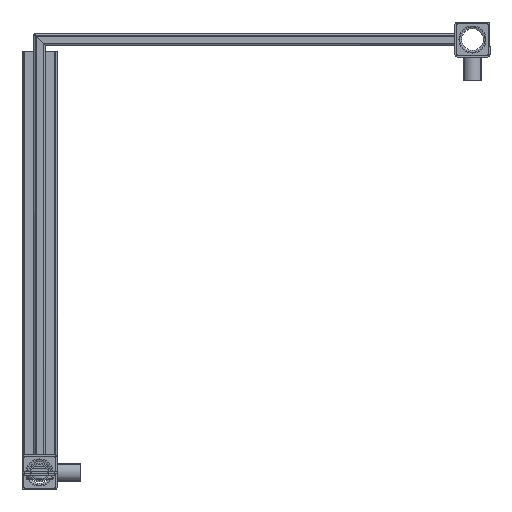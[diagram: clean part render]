
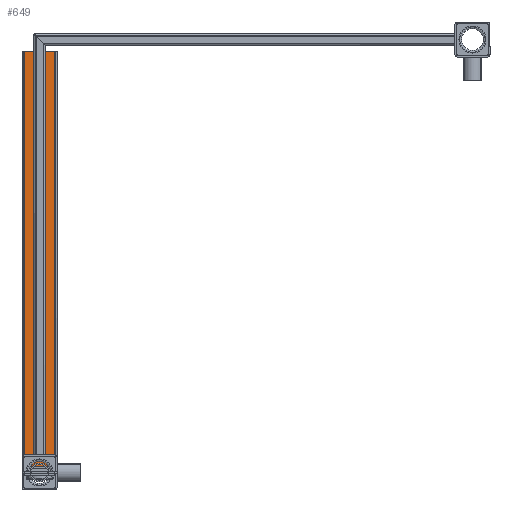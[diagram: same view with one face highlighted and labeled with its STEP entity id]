
A CAD part, front view. The second image highlights one B-rep face of the part: STEP entity #649.
In plain terms, the highlighted planar face has unit normal (0, -1, 0) as drawn and (0, 0, 1) by its records, which use the part's own axes.
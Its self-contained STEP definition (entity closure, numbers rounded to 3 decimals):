
#649 = ADVANCED_FACE( '', ( #1497 ), #1498, .T. );
#1497 = FACE_OUTER_BOUND( '', #2572, .T. );
#1498 = PLANE( '', #2573 );
#2572 = EDGE_LOOP( '', ( #4592, #4593, #4594, #4595 ) );
#2573 = AXIS2_PLACEMENT_3D( '', #4596, #4597, #4598 );
#4592 = ORIENTED_EDGE( '', *, *, #6904, .F. );
#4593 = ORIENTED_EDGE( '', *, *, #6905, .T. );
#4594 = ORIENTED_EDGE( '', *, *, #6906, .F. );
#4595 = ORIENTED_EDGE( '', *, *, #6907, .T. );
#4596 = CARTESIAN_POINT( '', ( 15., 389.28, 5. ) );
#4597 = DIRECTION( '', ( 0., 0., 1. ) );
#4598 = DIRECTION( '', ( 1., 0., 0. ) );
#6904 = EDGE_CURVE( '', #8559, #8560, #8561, .T. );
#6905 = EDGE_CURVE( '', #8559, #8562, #8563, .F. );
#6906 = EDGE_CURVE( '', #8564, #8562, #8565, .T. );
#6907 = EDGE_CURVE( '', #8564, #8560, #8566, .T. );
#8559 = VERTEX_POINT( '', #10708 );
#8560 = VERTEX_POINT( '', #10709 );
#8561 = LINE( '', #10710, #10711 );
#8562 = VERTEX_POINT( '', #10712 );
#8563 = LINE( '', #10713, #10714 );
#8564 = VERTEX_POINT( '', #10715 );
#8565 = LINE( '', #10716, #10717 );
#8566 = LINE( '', #10718, #10719 );
#10708 = CARTESIAN_POINT( '', ( 13., 25., 5. ) );
#10709 = CARTESIAN_POINT( '', ( -13., 25., 5. ) );
#10710 = CARTESIAN_POINT( '', ( 15., 25., 5. ) );
#10711 = VECTOR( '', #12429, 1000. );
#10712 = CARTESIAN_POINT( '', ( 13., 380., 5. ) );
#10713 = CARTESIAN_POINT( '', ( 13., 389.28, 5. ) );
#10714 = VECTOR( '', #12430, 1000. );
#10715 = CARTESIAN_POINT( '', ( -13., 380., 5. ) );
#10716 = CARTESIAN_POINT( '', ( -15., 380., 5. ) );
#10717 = VECTOR( '', #12431, 1000. );
#10718 = CARTESIAN_POINT( '', ( -13., 389.28, 5. ) );
#10719 = VECTOR( '', #12432, 1000. );
#12429 = DIRECTION( '', ( -1., 0., 0. ) );
#12430 = DIRECTION( '', ( 0., -1., 0. ) );
#12431 = DIRECTION( '', ( 1., 0., 0. ) );
#12432 = DIRECTION( '', ( 0., -1., 0. ) );
